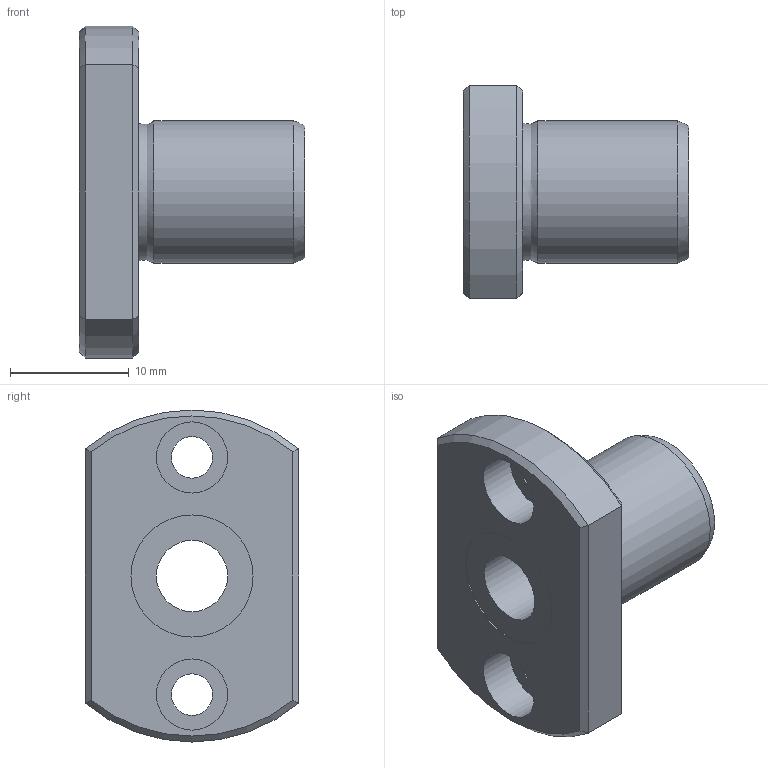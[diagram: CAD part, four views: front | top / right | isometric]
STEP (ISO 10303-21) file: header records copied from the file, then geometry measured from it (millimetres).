
FILE_DESCRIPTION((''),'2;1');
FILE_NAME('D:\製品 (図面)\カタログ用3D\リニアベアリング関連\STEP形式\LFT\LFT6.stp','2010-06-04T09:15:18',('Tsuchiya'),(''),'Autodesk Inventor 10','Autodesk Inventor 10','');
FILE_SCHEMA(('AUTOMOTIVE_DESIGN { 1 0 10303 214 1 1 1 1 }'));
Length unit declared in the file: millimetre
Products named in the file (1): LFT6
Bounding box: 19 x 18 x 28 mm (x, y, z)
Volume: 3115.3 mm3; surface area: 2243.6 mm2
Topology: 1 solids, 1 shells, 29 faces, 56 edges, 34 vertices
Faces by surface type: plane 13, cylinder 10, cone 4, bspline 2
Full cylindrical faces by diameter (mm): 3.5 x2, 6 x3, 10.3 x2, 12 x1
Entity records: 809 total; most frequent: CARTESIAN_POINT 222, DIRECTION 120, ORIENTED_EDGE 92, AXIS2_PLACEMENT_3D 54, EDGE_LOOP 50, EDGE_CURVE 46, VERTEX_POINT 34, FACE_OUTER_BOUND 29
